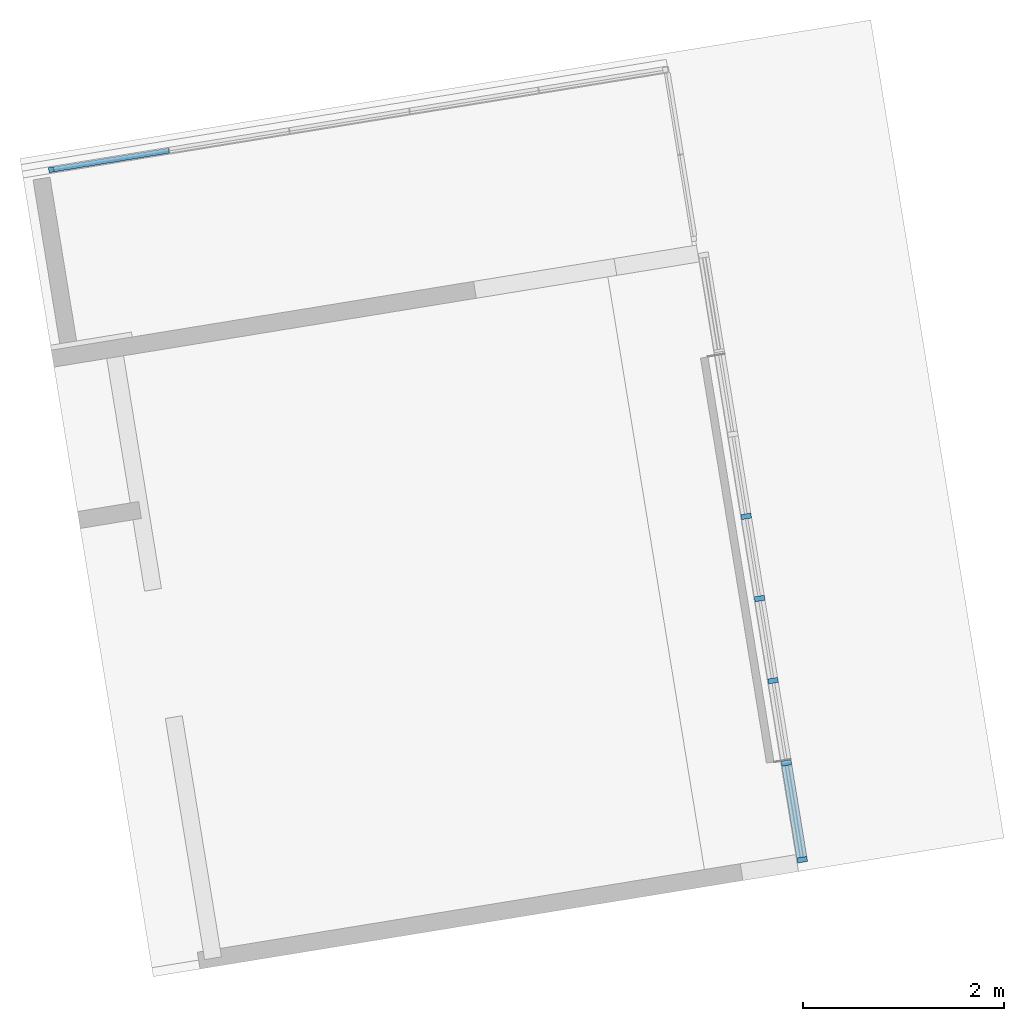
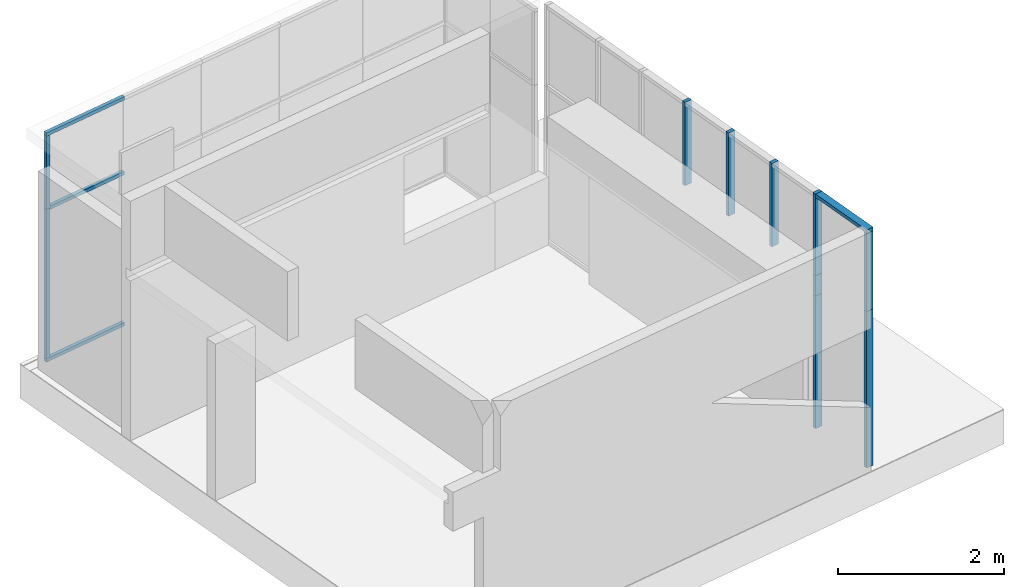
# One storey, part 1 of 13: 14 members, 2 elements without a shape of their own.
"""IFC2X3 building model written with IfcOpenShell, lengths in millimetres."""

from ifc_helpers import new_model, entity, si_unit, converted_unit, derived_unit, direction, frame, frame_2d, origin, origin_with_axes, origin_2d_with_axis, place, context, subcontext, project, spatial, rectangle, extrude, source, transform, mapped, material, type_object, element, aggregate, save


model = new_model("IFC2X3")

# Units and contexts
plan_context = context("Plan", 3, precision=1e-05, world=origin_with_axes())
model_context = context("Model", 3, precision=0.01, world=origin(), true_north=direction((6.12323399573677e-17, 1.0)))
body_context = subcontext(model_context, "Body", "Model", "MODEL_VIEW")
ifc_project = project(units=[converted_unit("PLANEANGLEUNIT", "DEGREE", entity("IfcPositiveLengthMeasure", 0.0174532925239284), si_unit("PLANEANGLEUNIT", "RADIAN"), dimensions=[0, 0, 0, 0, 0, 0, 0]), si_unit("AREAUNIT", "SQUARE_METRE"), si_unit("LENGTHUNIT", "METRE", prefix="MILLI"), si_unit("MASSUNIT", "GRAM", prefix="KILO"), si_unit("POWERUNIT", "WATT"), si_unit("PRESSUREUNIT", "PASCAL", prefix="KILO"), si_unit("FORCEUNIT", "NEWTON", prefix="KILO"), si_unit("ELECTRICVOLTAGEUNIT", "VOLT"), si_unit("ELECTRICCURRENTUNIT", "AMPERE"), si_unit("THERMODYNAMICTEMPERATUREUNIT", "DEGREE_CELSIUS"), si_unit("TIMEUNIT", "SECOND"), si_unit("VOLUMEUNIT", "CUBIC_METRE"), derived_unit("LINEARVELOCITYUNIT", [(si_unit("LENGTHUNIT", "METRE"), 1), (si_unit("TIMEUNIT", "SECOND"), -1)]), derived_unit("VOLUMETRICFLOWRATEUNIT", [(si_unit("VOLUMEUNIT", "CUBIC_METRE"), 1), (si_unit("TIMEUNIT", "SECOND"), -1)]), derived_unit("THERMALTRANSMITTANCEUNIT", [(si_unit("POWERUNIT", "WATT"), 1), (si_unit("THERMODYNAMICTEMPERATUREUNIT", "KELVIN"), -1), (si_unit("AREAUNIT", "SQUARE_METRE"), -1)]), derived_unit("SOUNDPRESSUREUNIT", [(si_unit("PRESSUREUNIT", "PASCAL"), 1)])], contexts=[model_context, plan_context])

# Site, building, storey
site_placement = place(None, frame((-305029.896016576, -232111.759730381, 0.0), z_axis=(0.0, 0.0, 1.0), x_axis=(-0.160806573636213, 0.986985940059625, 0.0)))
site = spatial("IfcSite", under=ifc_project, at=site_placement, Name="Default", CompositionType="ELEMENT")
building_placement = place(site_placement, frame((0.0, 0.0, 0.0), z_axis=(0.0, 0.0, 1.0), x_axis=(1.0, -2.77555756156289e-17, 0.0)))
building = spatial("IfcBuilding", under=site, at=building_placement, Name="br001-a-200-1-0001", CompositionType="ELEMENT")
storey_placement = place(building_placement, frame((0.0, 0.0, 51360.0000000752), z_axis=(0.0, 0.0, 1.0), x_axis=(1.0, -2.77555756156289e-17, 0.0)))
storey = spatial("IfcBuildingStorey", under=building, at=storey_placement, Name="H01-Nivå D+0,36", CompositionType="ELEMENT", Elevation=51360.0000000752)

# Curtain wall, members
curtain_wall_type_1 = type_object("IfcCurtainWallType", Name="Curtain Wall:NSW Innvendig glassfelt", PredefinedType="NOTDEFINED")
curtain_wall_1_placement = place(storey_placement, frame((0.0, 0.0, -51360.0000000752), z_axis=(0.0, 0.0, 1.0), x_axis=(1.0, -2.77555756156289e-17, 0.0)))
curtain_wall_1 = element("IfcCurtainWall", 1, at=curtain_wall_1_placement, inside=storey, type_object=curtain_wall_type_1, Name="Curtain Wall:NSW Innvendig glassfelt", ObjectType="Curtain Wall:NSW Innvendig glassfelt")
ifc_material_1 = material(Name="Laminate - Ivory, Matte")
member_type_1 = type_object("IfcMemberType", Name="Rectangular Mullion:NSW Innvendig spross 50x100 mm", PredefinedType="MULLION", material=ifc_material_1)
shared_shape_1 = source(origin(), body_context, "Body", "SweptSolid", [
    extrude(rectangle(XDim=50.0, YDim=100.0, at=origin_2d_with_axis()), frame((-25.0, 0.0, -1150.0), z_axis=(0.0, 0.0, 1.0), x_axis=(-1.0, 0.0, 0.0)), (0.0, 0.0, 1.0), 1150.0),
])
member_1_placement = place(curtain_wall_1_placement, frame((1152248.59858442, -711141.378367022, 54810.0), z_axis=(0.0, 0.0, 1.0), x_axis=(-1.0, 2.77555756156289e-17, 0.0)))
member_1 = element("IfcMember", 2, at=member_1_placement, type_object=member_type_1, material=ifc_material_1, Name="Rectangular Mullion:NSW Innvendig spross 50x100 mm", ObjectType="Rectangular Mullion:NSW Innvendig spross 50x100 mm", context=body_context, shape_type="MappedRepresentation", body=[
    mapped(shared_shape_1, transform((0.0, 0.0, 0.0), scale=1.0)),
])
member_type_2 = type_object("IfcMemberType", Name="Rectangular Mullion:NSW Innvendig spross 50x100 mm", PredefinedType="MULLION", material=ifc_material_1)
shared_shape_2 = source(origin(), body_context, "Body", "SweptSolid", [
    extrude(rectangle(XDim=50.0, YDim=100.0, at=origin_2d_with_axis()), frame((-25.0, 0.0, -975.0), z_axis=(0.0, 0.0, 1.0), x_axis=(-1.0, 0.0, 0.0)), (0.0, 0.0, 1.0), 975.000000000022),
])
member_2_placement = place(curtain_wall_1_placement, frame((1153223.59858442, -711141.378367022, 54860.0), z_axis=(1.0, -2.77555756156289e-17, 0.0), x_axis=(0.0, 0.0, 1.0)))
member_2 = element("IfcMember", 3, at=member_2_placement, type_object=member_type_2, material=ifc_material_1, Name="Rectangular Mullion:NSW Innvendig spross 50x100 mm", ObjectType="Rectangular Mullion:NSW Innvendig spross 50x100 mm", context=body_context, shape_type="MappedRepresentation", body=[
    mapped(shared_shape_2, transform((0.0, 0.0, 0.0), scale=1.0)),
])
member_type_3 = type_object("IfcMemberType", Name="Rectangular Mullion:NSW Innvendig spross 50x100 mm", PredefinedType="MULLION", material=ifc_material_1)
shared_shape_3 = source(origin(), body_context, "Body", "SweptSolid", [
    extrude(rectangle(XDim=50.0, YDim=100.0, at=frame_2d((0.0, -7.105427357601e-15), x_axis=(1.0, 0.0))), frame((0.0, 0.0, -2250.0), z_axis=(0.0, 0.0, 1.0), x_axis=(-1.0, 0.0, 0.0)), (0.0, 0.0, 1.0), 2250.0),
])
member_3_placement = place(curtain_wall_1_placement, frame((1153248.59858442, -711141.378367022, 51410.0), z_axis=(0.0, 0.0, -1.0), x_axis=(1.0, -2.77555756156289e-17, 0.0)))
member_3 = element("IfcMember", 4, at=member_3_placement, type_object=member_type_3, material=ifc_material_1, Name="Rectangular Mullion:NSW Innvendig spross 50x100 mm", ObjectType="Rectangular Mullion:NSW Innvendig spross 50x100 mm", context=body_context, shape_type="MappedRepresentation", body=[
    mapped(shared_shape_3, transform((0.0, 0.0, 0.0), scale=1.0)),
])
member_type_4 = type_object("IfcMemberType", Name="Rectangular Mullion:NSW Innvendig spross 50x100 mm", PredefinedType="MULLION", material=ifc_material_1)
shared_shape_4 = source(origin(), body_context, "Body", "SweptSolid", [
    extrude(rectangle(XDim=50.0, YDim=100.0, at=origin_2d_with_axis()), frame((-25.0, 0.0, -2300.0), z_axis=(0.0, 0.0, 1.0), x_axis=(-1.0, 0.0, 0.0)), (0.0, 0.0, 1.0), 2300.0),
])
member_4_placement = place(curtain_wall_1_placement, frame((1152248.59858442, -711141.378367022, 53660.0), z_axis=(0.0, 0.0, 1.0), x_axis=(-1.0, 2.77555756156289e-17, 0.0)))
member_4 = element("IfcMember", 5, at=member_4_placement, type_object=member_type_4, material=ifc_material_1, Name="Rectangular Mullion:NSW Innvendig spross 50x100 mm", ObjectType="Rectangular Mullion:NSW Innvendig spross 50x100 mm", context=body_context, shape_type="MappedRepresentation", body=[
    mapped(shared_shape_4, transform((0.0, 0.0, 0.0), scale=1.0)),
])
member_type_5 = type_object("IfcMemberType", Name="Rectangular Mullion:NSW Innvendig spross 50x100 mm", PredefinedType="MULLION", material=ifc_material_1)
shared_shape_5 = source(origin(), body_context, "Body", "SweptSolid", [
    extrude(rectangle(XDim=50.0, YDim=100.0, at=frame_2d((0.0, -7.105427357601e-15), x_axis=(1.0, 0.0))), frame((0.0, 0.0, -1200.0), z_axis=(0.0, 0.0, 1.0), x_axis=(-1.0, 0.0, 0.0)), (0.0, 0.0, 1.0), 1200.0),
])
member_5_placement = place(curtain_wall_1_placement, frame((1153248.59858442, -711141.378367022, 53660.0), z_axis=(0.0, 0.0, -1.0), x_axis=(1.0, -2.77555756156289e-17, 0.0)))
member_5 = element("IfcMember", 6, at=member_5_placement, type_object=member_type_5, material=ifc_material_1, Name="Rectangular Mullion:NSW Innvendig spross 50x100 mm", ObjectType="Rectangular Mullion:NSW Innvendig spross 50x100 mm", context=body_context, shape_type="MappedRepresentation", body=[
    mapped(shared_shape_5, transform((0.0, 0.0, 0.0), scale=1.0)),
])
member_type_6 = type_object("IfcMemberType", Name="Rectangular Mullion:NSW Innvendig spross 50x100 mm", PredefinedType="MULLION", material=ifc_material_1)
shared_shape_6 = source(origin(), body_context, "Body", "SweptSolid", [
    extrude(rectangle(XDim=50.0, YDim=100.0, at=frame_2d((0.0, -7.105427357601e-15), x_axis=(1.0, 0.0))), frame((0.0, 0.0, -1225.0), z_axis=(0.0, 0.0, 1.0), x_axis=(-1.0, 0.0, 0.0)), (0.0, 0.0, 1.0), 1225.0),
])
member_6_placement = place(curtain_wall_1_placement, frame((1154076.59858442, -711141.378367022, 53635.0), z_axis=(0.0, 0.0, -1.0), x_axis=(1.0, -2.77555756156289e-17, 0.0)))
member_6 = element("IfcMember", 7, at=member_6_placement, type_object=member_type_6, material=ifc_material_1, Name="Rectangular Mullion:NSW Innvendig spross 50x100 mm", ObjectType="Rectangular Mullion:NSW Innvendig spross 50x100 mm", context=body_context, shape_type="MappedRepresentation", body=[
    mapped(shared_shape_6, transform((0.0, 0.0, 0.0), scale=1.0)),
])
member_7_placement = place(curtain_wall_1_placement, frame((1154904.59858442, -711141.378367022, 53635.0), z_axis=(0.0, 0.0, -1.0), x_axis=(1.0, -2.77555756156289e-17, 0.0)))
member_7 = element("IfcMember", 8, at=member_7_placement, type_object=member_type_6, material=ifc_material_1, Name="Rectangular Mullion:NSW Innvendig spross 50x100 mm", ObjectType="Rectangular Mullion:NSW Innvendig spross 50x100 mm", context=body_context, shape_type="MappedRepresentation", body=[
    mapped(shared_shape_6, transform((0.0, 0.0, 0.0), scale=1.0)),
])
member_8_placement = place(curtain_wall_1_placement, frame((1155732.59858442, -711141.378367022, 53635.0), z_axis=(0.0, 0.0, -1.0), x_axis=(1.0, -2.77555756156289e-17, 0.0)))
member_8 = element("IfcMember", 9, at=member_8_placement, type_object=member_type_6, material=ifc_material_1, Name="Rectangular Mullion:NSW Innvendig spross 50x100 mm", ObjectType="Rectangular Mullion:NSW Innvendig spross 50x100 mm", context=body_context, shape_type="MappedRepresentation", body=[
    mapped(shared_shape_6, transform((0.0, 0.0, 0.0), scale=1.0)),
])
member_type_7 = type_object("IfcMemberType", Name="Rectangular Mullion:NSW Innvendig spross 50x100 mm", PredefinedType="MULLION", material=ifc_material_1)
shared_shape_7 = source(origin(), body_context, "Body", "SweptSolid", [
    extrude(rectangle(XDim=50.0, YDim=100.0, at=origin_2d_with_axis()), frame((-25.0, 0.0, -1950.00000007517), z_axis=(0.0, 0.0, 1.0), x_axis=(-1.0, 0.0, 0.0)), (0.0, 0.0, 1.0), 1950.00000007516),
])
member_9_placement = place(curtain_wall_1_placement, frame((1153273.59858442, -711141.378367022, 51410.0), z_axis=(0.0, 0.0, -1.0), x_axis=(1.0, -2.77555756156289e-17, 0.0)))
member_9 = element("IfcMember", 10, at=member_9_placement, type_object=member_type_7, material=ifc_material_1, Name="Rectangular Mullion:NSW Innvendig spross 50x100 mm", ObjectType="Rectangular Mullion:NSW Innvendig spross 50x100 mm", context=body_context, shape_type="MappedRepresentation", body=[
    mapped(shared_shape_7, transform((0.0, 0.0, 0.0), scale=1.0)),
])
aggregate(curtain_wall_1, [member_1, member_2, member_3, member_4, member_5, member_6, member_7, member_8, member_9])

curtain_wall_type_2 = type_object("IfcCurtainWallType", Name="Curtain Wall:A243 Innvendig glassvegg", PredefinedType="NOTDEFINED")
curtain_wall_2_placement = place(storey_placement, frame((0.0, 0.0, -51360.0000000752), z_axis=(0.0, 0.0, 1.0), x_axis=(1.0, -2.77555756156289e-17, 0.0)))
curtain_wall_2 = element("IfcCurtainWall", 11, at=curtain_wall_2_placement, inside=storey, type_object=curtain_wall_type_2, Name="Curtain Wall:A243 Innvendig glassvegg", ObjectType="Curtain Wall:A243 Innvendig glassvegg")
ifc_material_2 = material(Name="Metal - Aluminium")
member_type_8 = type_object("IfcMemberType", Name="Rectangular Mullion:NSW 50x50 Add on", PredefinedType="MULLION", material=ifc_material_2)
shared_shape_8 = source(origin(), body_context, "Body", "SweptSolid", [
    extrude(rectangle(XDim=50.0, YDim=50.0, at=origin_2d_with_axis()), frame((-25.0, 15.0, -1073.3333333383), z_axis=(0.0, 0.0, 1.0), x_axis=(-1.0, 0.0, 0.0)), (0.0, 0.0, 1.0), 1073.3333333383),
])
member_10_placement = place(curtain_wall_2_placement, frame((1160258.59858442, -704851.378367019, 54680.0000000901), z_axis=(0.0, 0.0, 1.0), x_axis=(2.77555756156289e-17, 1.0, 0.0)))
member_10 = element("IfcMember", 12, at=member_10_placement, type_object=member_type_8, material=ifc_material_2, Name="Rectangular Mullion:NSW 50x50 Add on", ObjectType="Rectangular Mullion:NSW 50x50 Add on", context=body_context, shape_type="MappedRepresentation", body=[
    mapped(shared_shape_8, transform((0.0, 0.0, 0.0), scale=1.0)),
])
member_type_9 = type_object("IfcMemberType", Name="Rectangular Mullion:NSW 50x50 Add on", PredefinedType="MULLION", material=ifc_material_2)
shared_shape_9 = source(origin(), body_context, "Body", "SweptSolid", [
    extrude(rectangle(XDim=50.0, YDim=50.0, at=origin_2d_with_axis()), frame((-25.0, 15.0, -1211.6666666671), z_axis=(0.0, 0.0, 1.0), x_axis=(-1.0, 0.0, 0.0)), (0.0, 0.0, 1.0), 1211.6666666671),
])
member_11_placement = place(curtain_wall_2_placement, frame((1160258.59858442, -704851.378367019, 51360.0000000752), z_axis=(2.77555756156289e-17, 1.0, 0.0), x_axis=(0.0, 0.0, -1.0)))
member_11 = element("IfcMember", 13, at=member_11_placement, type_object=member_type_9, material=ifc_material_2, Name="Rectangular Mullion:NSW 50x50 Add on", ObjectType="Rectangular Mullion:NSW 50x50 Add on", context=body_context, shape_type="MappedRepresentation", body=[
    mapped(shared_shape_9, transform((0.0, 0.0, 0.0), scale=1.0)),
])
member_type_10 = type_object("IfcMemberType", Name="Rectangular Mullion:NSW 50x50 Add on", PredefinedType="MULLION", material=ifc_material_2)
member_12_placement = place(curtain_wall_2_placement, frame((1160258.59858442, -706063.045033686, 54730.0000000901), z_axis=(-2.77555756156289e-17, -1.0, 0.0), x_axis=(0.0, 0.0, 1.0)))
member_12 = element("IfcMember", 14, at=member_12_placement, type_object=member_type_10, material=ifc_material_2, Name="Rectangular Mullion:NSW 50x50 Add on", ObjectType="Rectangular Mullion:NSW 50x50 Add on", context=body_context, shape_type="MappedRepresentation", body=[
    mapped(shared_shape_9, transform((0.0, 0.0, 0.0), scale=1.0)),
])
member_type_11 = type_object("IfcMemberType", Name="Rectangular Mullion:NSW 50x50 Add on", PredefinedType="MULLION", material=ifc_material_2)
shared_shape_10 = source(origin(), body_context, "Body", "SweptSolid", [
    extrude(rectangle(XDim=50.0, YDim=50.0, at=origin_2d_with_axis()), frame((-25.0, 15.0, -2196.6666666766), z_axis=(0.0, 0.0, 1.0), x_axis=(-1.0, 0.0, 0.0)), (0.0, 0.0, 1.0), 2196.6666666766),
])
member_13_placement = place(curtain_wall_2_placement, frame((1160258.59858442, -704851.378367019, 53606.6666667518), z_axis=(0.0, 0.0, 1.0), x_axis=(2.77555756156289e-17, 1.0, 0.0)))
member_13 = element("IfcMember", 15, at=member_13_placement, type_object=member_type_11, material=ifc_material_2, Name="Rectangular Mullion:NSW 50x50 Add on", ObjectType="Rectangular Mullion:NSW 50x50 Add on", context=body_context, shape_type="MappedRepresentation", body=[
    mapped(shared_shape_10, transform((0.0, 0.0, 0.0), scale=1.0)),
])
member_type_12 = type_object("IfcMemberType", Name="Rectangular Mullion:NSW 50x50 Add on", PredefinedType="MULLION", material=ifc_material_2)
shared_shape_11 = source(origin(), body_context, "Body", "SweptSolid", [
    extrude(rectangle(XDim=50.0, YDim=50.0, at=origin_2d_with_axis()), frame((0.0, 15.0, -1158.36666666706), z_axis=(0.0, 0.0, 1.0), x_axis=(-1.0, 0.0, 0.0)), (0.0, 0.0, 1.0), 1158.3666666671),
])
member_14_placement = place(curtain_wall_2_placement, frame((1160258.59858442, -706059.745033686, 53606.6666667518), z_axis=(-2.77555756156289e-17, -1.0, 0.0), x_axis=(0.0, 0.0, 1.0)))
member_14 = element("IfcMember", 16, at=member_14_placement, type_object=member_type_12, material=ifc_material_2, Name="Rectangular Mullion:NSW 50x50 Add on", ObjectType="Rectangular Mullion:NSW 50x50 Add on", context=body_context, shape_type="MappedRepresentation", body=[
    mapped(shared_shape_11, transform((0.0, 0.0, 0.0), scale=1.0)),
])
aggregate(curtain_wall_2, [member_10, member_11, member_12, member_13, member_14])

save(model, "model.ifc")
